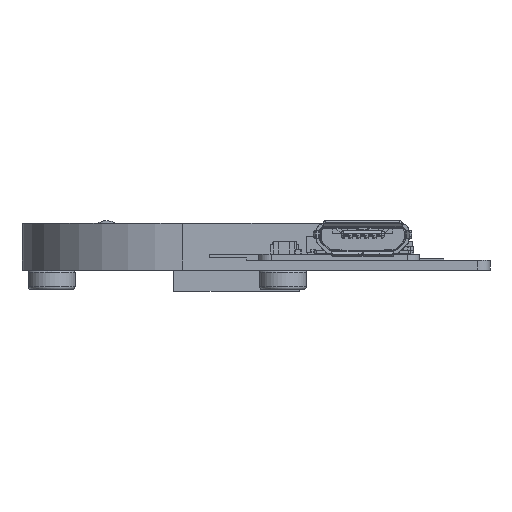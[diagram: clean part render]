
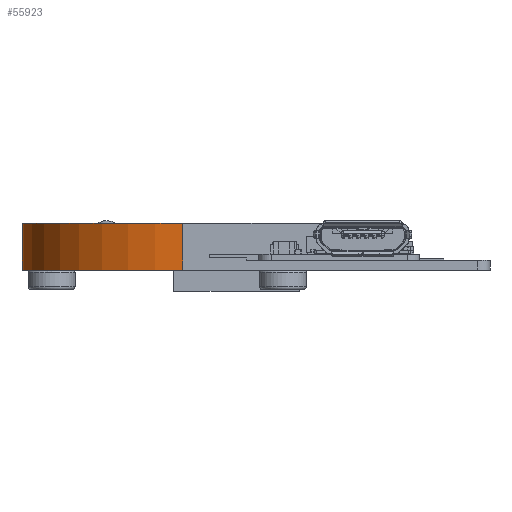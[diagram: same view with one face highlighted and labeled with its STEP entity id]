
A CAD part, left-side view. The second image highlights one B-rep face of the part: STEP entity #55923.
In plain terms, the highlighted cylindrical face has radius 13 mm (diameter 26 mm), a partial arc.
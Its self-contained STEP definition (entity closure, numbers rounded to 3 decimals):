
#193 = DIRECTION ( 'NONE',  ( 0., 0., 1. ) ) ;
#1436 = VECTOR ( 'NONE', #4422, 1000. ) ;
#2030 = ORIENTED_EDGE ( 'NONE', *, *, #11615, .T. ) ;
#4422 = DIRECTION ( 'NONE',  ( 0., 0., 1. ) ) ;
#4712 = CIRCLE ( 'NONE', #38960, 13. ) ;
#9141 = VERTEX_POINT ( 'NONE', #46777 ) ;
#10218 = CARTESIAN_POINT ( 'NONE',  ( -23.1, 10.1, 3. ) ) ;
#10436 = DIRECTION ( 'NONE',  ( 0., 0., 1. ) ) ;
#11615 = EDGE_CURVE ( 'NONE', #54250, #59790, #25848, .T. ) ;
#16158 = CARTESIAN_POINT ( 'NONE',  ( -10.1, 23.1, -0.8 ) ) ;
#16180 = FACE_OUTER_BOUND ( 'NONE', #34408, .T. ) ;
#22582 = LINE ( 'NONE', #16158, #57664 ) ;
#24908 = DIRECTION ( 'NONE',  ( 1., 0., 0. ) ) ;
#25072 = AXIS2_PLACEMENT_3D ( 'NONE', #53695, #193, #70134 ) ;
#25848 = LINE ( 'NONE', #58235, #1436 ) ;
#26533 = DIRECTION ( 'NONE',  ( 0., 0., 1. ) ) ;
#26934 = AXIS2_PLACEMENT_3D ( 'NONE', #42959, #26533, #44018 ) ;
#30117 = EDGE_CURVE ( 'NONE', #9141, #57032, #22582, .T. ) ;
#34408 = EDGE_LOOP ( 'NONE', ( #70458, #63791, #37358, #2030 ) ) ;
#37358 = ORIENTED_EDGE ( 'NONE', *, *, #47970, .T. ) ;
#38960 = AXIS2_PLACEMENT_3D ( 'NONE', #68076, #67715, #24908 ) ;
#42599 = CYLINDRICAL_SURFACE ( 'NONE', #26934, 13. ) ;
#42959 = CARTESIAN_POINT ( 'NONE',  ( -10.1, 10.1, -0.8 ) ) ;
#44018 = DIRECTION ( 'NONE',  ( 1., 0., 0. ) ) ;
#44430 = CARTESIAN_POINT ( 'NONE',  ( -10.1, 23.1, 3. ) ) ;
#46777 = CARTESIAN_POINT ( 'NONE',  ( -10.1, 23.1, -0.8 ) ) ;
#47847 = CIRCLE ( 'NONE', #25072, 13. ) ;
#47970 = EDGE_CURVE ( 'NONE', #9141, #54250, #4712, .T. ) ;
#53695 = CARTESIAN_POINT ( 'NONE',  ( -10.1, 10.1, 3. ) ) ;
#54250 = VERTEX_POINT ( 'NONE', #67664 ) ;
#55923 = ADVANCED_FACE ( 'NONE', ( #16180 ), #42599, .T. ) ;
#57032 = VERTEX_POINT ( 'NONE', #44430 ) ;
#57664 = VECTOR ( 'NONE', #10436, 1000. ) ;
#58235 = CARTESIAN_POINT ( 'NONE',  ( -23.1, 10.1, -0.8 ) ) ;
#59790 = VERTEX_POINT ( 'NONE', #10218 ) ;
#60964 = EDGE_CURVE ( 'NONE', #57032, #59790, #47847, .T. ) ;
#63791 = ORIENTED_EDGE ( 'NONE', *, *, #30117, .F. ) ;
#67664 = CARTESIAN_POINT ( 'NONE',  ( -23.1, 10.1, -0.8 ) ) ;
#67715 = DIRECTION ( 'NONE',  ( 0., 0., 1. ) ) ;
#68076 = CARTESIAN_POINT ( 'NONE',  ( -10.1, 10.1, -0.8 ) ) ;
#70134 = DIRECTION ( 'NONE',  ( 0., 1., 0. ) ) ;
#70458 = ORIENTED_EDGE ( 'NONE', *, *, #60964, .F. ) ;
